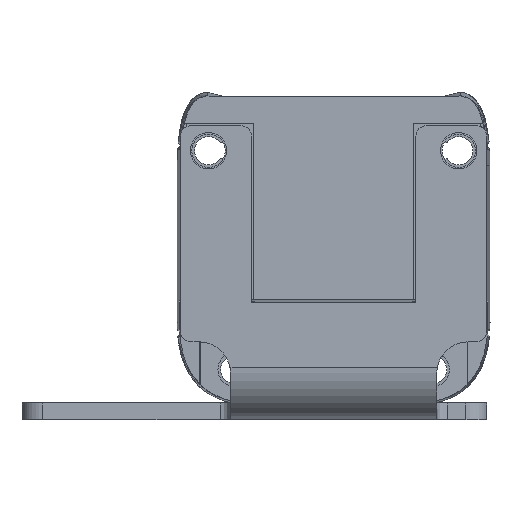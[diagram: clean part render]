
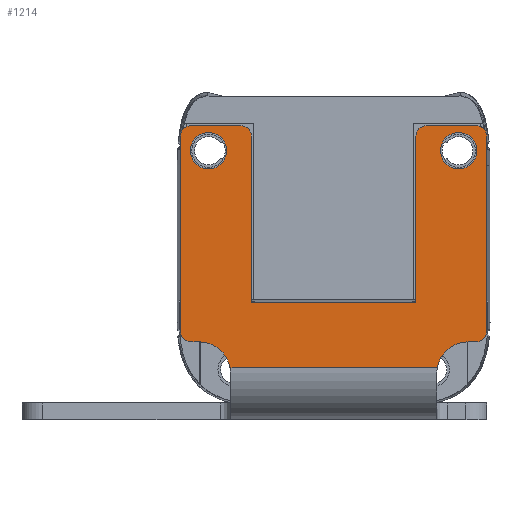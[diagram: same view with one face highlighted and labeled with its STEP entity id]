
A CAD part, front view. The second image highlights one B-rep face of the part: STEP entity #1214.
In plain terms, the highlighted planar face has unit normal (0, -1, 0).
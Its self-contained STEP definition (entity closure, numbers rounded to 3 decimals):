
#1214=ADVANCED_FACE('',(#1904,#1905,#1906),#1492,.T.);
#1492=PLANE('',#9447);
#1797=CIRCLE('',#9437,3.);
#1798=CIRCLE('',#9438,1.);
#1799=CIRCLE('',#9439,1.);
#1800=CIRCLE('',#9440,1.);
#1801=CIRCLE('',#9441,1.);
#1802=CIRCLE('',#9442,1.);
#1803=CIRCLE('',#9443,1.);
#1804=CIRCLE('',#9444,3.);
#1805=CIRCLE('',#9445,1.75);
#1806=CIRCLE('',#9446,1.75);
#1904=FACE_BOUND('',#2370,.T.);
#1905=FACE_BOUND('',#2371,.T.);
#1906=FACE_BOUND('',#2372,.T.);
#2370=EDGE_LOOP('',(#4747,#4748,#4749,#4750,#4751,#4752,#4753,#4754,#4755,
#4756,#4757,#4758,#4759,#4760,#4761,#4762,#4763,#4764));
#2371=EDGE_LOOP('',(#4765));
#2372=EDGE_LOOP('',(#4766));
#4747=ORIENTED_EDGE('',*,*,#6984,.T.);
#4748=ORIENTED_EDGE('',*,*,#6985,.F.);
#4749=ORIENTED_EDGE('',*,*,#6986,.T.);
#4750=ORIENTED_EDGE('',*,*,#6987,.T.);
#4751=ORIENTED_EDGE('',*,*,#6988,.T.);
#4752=ORIENTED_EDGE('',*,*,#6989,.T.);
#4753=ORIENTED_EDGE('',*,*,#6990,.T.);
#4754=ORIENTED_EDGE('',*,*,#6991,.F.);
#4755=ORIENTED_EDGE('',*,*,#6992,.F.);
#4756=ORIENTED_EDGE('',*,*,#6993,.T.);
#4757=ORIENTED_EDGE('',*,*,#6994,.T.);
#4758=ORIENTED_EDGE('',*,*,#6995,.F.);
#4759=ORIENTED_EDGE('',*,*,#6996,.T.);
#4760=ORIENTED_EDGE('',*,*,#6997,.F.);
#4761=ORIENTED_EDGE('',*,*,#6998,.T.);
#4762=ORIENTED_EDGE('',*,*,#6999,.T.);
#4763=ORIENTED_EDGE('',*,*,#7000,.T.);
#4764=ORIENTED_EDGE('',*,*,#7001,.T.);
#4765=ORIENTED_EDGE('',*,*,#7002,.F.);
#4766=ORIENTED_EDGE('',*,*,#7003,.T.);
#5758=VERTEX_POINT('',#15444);
#5759=VERTEX_POINT('',#15445);
#5760=VERTEX_POINT('',#15447);
#5761=VERTEX_POINT('',#15449);
#5762=VERTEX_POINT('',#15451);
#5763=VERTEX_POINT('',#15453);
#5764=VERTEX_POINT('',#15455);
#5765=VERTEX_POINT('',#15457);
#5766=VERTEX_POINT('',#15459);
#5767=VERTEX_POINT('',#15461);
#5768=VERTEX_POINT('',#15463);
#5769=VERTEX_POINT('',#15465);
#5770=VERTEX_POINT('',#15467);
#5771=VERTEX_POINT('',#15469);
#5772=VERTEX_POINT('',#15471);
#5773=VERTEX_POINT('',#15473);
#5774=VERTEX_POINT('',#15475);
#5775=VERTEX_POINT('',#15477);
#5776=VERTEX_POINT('',#15480);
#5777=VERTEX_POINT('',#15482);
#6984=EDGE_CURVE('',#5758,#5759,#1797,.T.);
#6985=EDGE_CURVE('',#5760,#5759,#7863,.T.);
#6986=EDGE_CURVE('',#5760,#5761,#1798,.T.);
#6987=EDGE_CURVE('',#5761,#5762,#7864,.T.);
#6988=EDGE_CURVE('',#5762,#5763,#1799,.T.);
#6989=EDGE_CURVE('',#5763,#5764,#7865,.T.);
#6990=EDGE_CURVE('',#5764,#5765,#1800,.T.);
#6991=EDGE_CURVE('',#5766,#5765,#7866,.T.);
#6992=EDGE_CURVE('',#5767,#5766,#7867,.T.);
#6993=EDGE_CURVE('',#5767,#5768,#7868,.T.);
#6994=EDGE_CURVE('',#5768,#5769,#1801,.T.);
#6995=EDGE_CURVE('',#5770,#5769,#7869,.T.);
#6996=EDGE_CURVE('',#5770,#5771,#1802,.T.);
#6997=EDGE_CURVE('',#5772,#5771,#7870,.T.);
#6998=EDGE_CURVE('',#5772,#5773,#1803,.T.);
#6999=EDGE_CURVE('',#5773,#5774,#7871,.T.);
#7000=EDGE_CURVE('',#5774,#5775,#1804,.T.);
#7001=EDGE_CURVE('',#5775,#5758,#7872,.T.);
#7002=EDGE_CURVE('',#5776,#5776,#1805,.T.);
#7003=EDGE_CURVE('',#5777,#5777,#1806,.T.);
#7863=LINE('',#15446,#8719);
#7864=LINE('',#15450,#8720);
#7865=LINE('',#15454,#8721);
#7866=LINE('',#15458,#8722);
#7867=LINE('',#15460,#8723);
#7868=LINE('',#15462,#8724);
#7869=LINE('',#15466,#8725);
#7870=LINE('',#15470,#8726);
#7871=LINE('',#15474,#8727);
#7872=LINE('',#15478,#8728);
#8719=VECTOR('',#11638,1.);
#8720=VECTOR('',#11641,1.);
#8721=VECTOR('',#11644,1.);
#8722=VECTOR('',#11647,1.);
#8723=VECTOR('',#11648,1.);
#8724=VECTOR('',#11649,1.);
#8725=VECTOR('',#11652,1.);
#8726=VECTOR('',#11655,1.);
#8727=VECTOR('',#11658,1.);
#8728=VECTOR('',#11661,1.);
#9437=AXIS2_PLACEMENT_3D('',#15443,#11636,#11637);
#9438=AXIS2_PLACEMENT_3D('',#15448,#11639,#11640);
#9439=AXIS2_PLACEMENT_3D('',#15452,#11642,#11643);
#9440=AXIS2_PLACEMENT_3D('',#15456,#11645,#11646);
#9441=AXIS2_PLACEMENT_3D('',#15464,#11650,#11651);
#9442=AXIS2_PLACEMENT_3D('',#15468,#11653,#11654);
#9443=AXIS2_PLACEMENT_3D('',#15472,#11656,#11657);
#9444=AXIS2_PLACEMENT_3D('',#15476,#11659,#11660);
#9445=AXIS2_PLACEMENT_3D('',#15479,#11662,#11663);
#9446=AXIS2_PLACEMENT_3D('',#15481,#11664,#11665);
#9447=AXIS2_PLACEMENT_3D('',#15483,#11666,#11667);
#11636=DIRECTION('',(0.,1.,0.));
#11637=DIRECTION('',(0.,0.,1.));
#11638=DIRECTION('',(-1.,0.,0.));
#11639=DIRECTION('',(0.,-1.,0.));
#11640=DIRECTION('',(0.,0.,1.));
#11641=DIRECTION('',(0.,0.,1.));
#11642=DIRECTION('',(0.,-1.,0.));
#11643=DIRECTION('',(0.,0.,-1.));
#11644=DIRECTION('',(-1.,0.,0.));
#11645=DIRECTION('',(0.,-1.,0.));
#11646=DIRECTION('',(0.,0.,-1.));
#11647=DIRECTION('',(0.,0.,1.));
#11648=DIRECTION('',(1.,0.,0.));
#11649=DIRECTION('',(0.,0.,1.));
#11650=DIRECTION('',(0.,-1.,0.));
#11651=DIRECTION('',(0.,0.,1.));
#11652=DIRECTION('',(1.,0.,0.));
#11653=DIRECTION('',(0.,-1.,0.));
#11654=DIRECTION('',(0.,0.,1.));
#11655=DIRECTION('',(0.,0.,1.));
#11656=DIRECTION('',(0.,-1.,0.));
#11657=DIRECTION('',(0.,0.,1.));
#11658=DIRECTION('',(1.,0.,0.));
#11659=DIRECTION('',(0.,1.,0.));
#11660=DIRECTION('',(0.,0.,1.));
#11661=DIRECTION('',(1.,0.,0.));
#11662=DIRECTION('',(0.,-1.,0.));
#11663=DIRECTION('',(0.,0.,1.));
#11664=DIRECTION('',(0.,1.,0.));
#11665=DIRECTION('',(0.,0.,-1.));
#11666=DIRECTION('',(0.,-1.,0.));
#11667=DIRECTION('',(-1.,0.,0.));
#15443=CARTESIAN_POINT('',(12.89,105.8,-139.533));
#15444=CARTESIAN_POINT('',(9.939,105.8,-138.994));
#15445=CARTESIAN_POINT('',(12.89,105.8,-136.533));
#15446=CARTESIAN_POINT('',(-7.89,105.8,-136.533));
#15447=CARTESIAN_POINT('',(13.69,105.8,-136.533));
#15448=CARTESIAN_POINT('',(13.69,105.8,-135.533));
#15449=CARTESIAN_POINT('',(14.69,105.8,-135.533));
#15450=CARTESIAN_POINT('',(14.69,105.8,-115.6));
#15451=CARTESIAN_POINT('',(14.69,105.8,-116.8));
#15452=CARTESIAN_POINT('',(13.69,105.8,-116.8));
#15453=CARTESIAN_POINT('',(13.69,105.8,-115.8));
#15454=CARTESIAN_POINT('',(7.89,105.8,-115.8));
#15455=CARTESIAN_POINT('',(8.89,105.8,-115.8));
#15456=CARTESIAN_POINT('',(8.89,105.8,-116.8));
#15457=CARTESIAN_POINT('',(7.89,105.8,-116.8));
#15458=CARTESIAN_POINT('',(7.89,105.8,-115.6));
#15459=CARTESIAN_POINT('',(7.89,105.8,-132.733));
#15460=CARTESIAN_POINT('',(-9.89,105.8,-132.733));
#15461=CARTESIAN_POINT('',(-7.89,105.8,-132.733));
#15462=CARTESIAN_POINT('',(-7.89,105.8,-115.6));
#15463=CARTESIAN_POINT('',(-7.89,105.8,-116.8));
#15464=CARTESIAN_POINT('',(-8.89,105.8,-116.8));
#15465=CARTESIAN_POINT('',(-8.89,105.8,-115.8));
#15466=CARTESIAN_POINT('',(-7.89,105.8,-115.8));
#15467=CARTESIAN_POINT('',(-13.69,105.8,-115.8));
#15468=CARTESIAN_POINT('',(-13.69,105.8,-116.8));
#15469=CARTESIAN_POINT('',(-14.69,105.8,-116.8));
#15470=CARTESIAN_POINT('',(-14.69,105.8,-115.6));
#15471=CARTESIAN_POINT('',(-14.69,105.8,-135.533));
#15472=CARTESIAN_POINT('',(-13.69,105.8,-135.533));
#15473=CARTESIAN_POINT('',(-13.69,105.8,-136.533));
#15474=CARTESIAN_POINT('',(-7.89,105.8,-136.533));
#15475=CARTESIAN_POINT('',(-12.89,105.8,-136.533));
#15476=CARTESIAN_POINT('',(-12.89,105.8,-139.533));
#15477=CARTESIAN_POINT('',(-9.939,105.8,-138.994));
#15478=CARTESIAN_POINT('',(-9.89,105.8,-138.994));
#15479=CARTESIAN_POINT('',(-12.,105.8,-118.2));
#15480=CARTESIAN_POINT('',(-12.,105.8,-116.45));
#15481=CARTESIAN_POINT('',(12.,105.8,-118.2));
#15482=CARTESIAN_POINT('',(12.,105.8,-119.95));
#15483=CARTESIAN_POINT('',(-9.89,105.8,-142.394));
